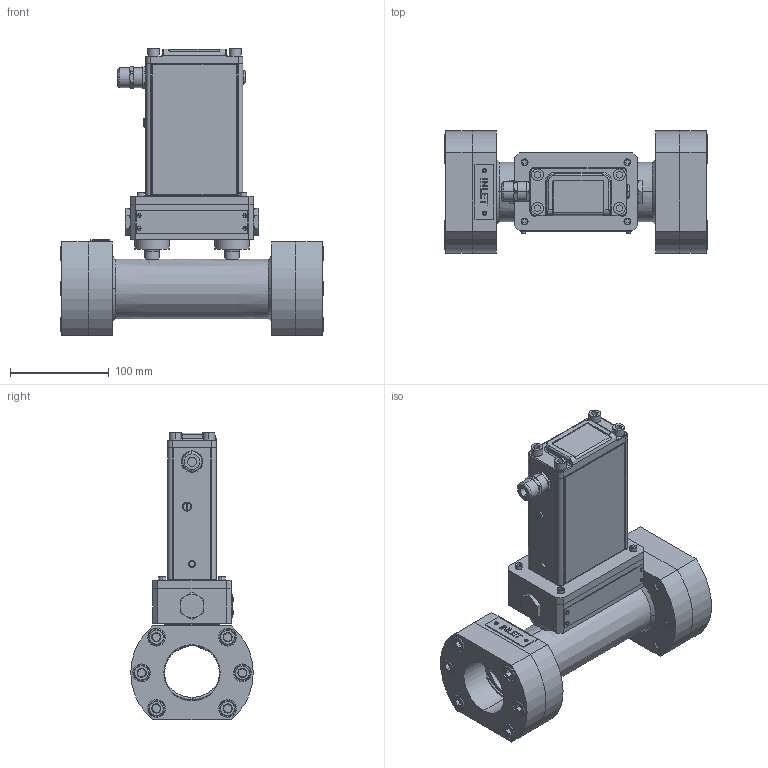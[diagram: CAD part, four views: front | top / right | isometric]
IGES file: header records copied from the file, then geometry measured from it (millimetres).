
Start section: SolidWorks IGES file using analytic representation for surfaces
Global section: file name: G:\Engineering\CAD MODELS FOR SALES\CAD MODEL STORAGE\SLA\SLAMF64\CUSTOMER FILES\IGES\SLAMF64-S-2W-0-G-REVB.IGS; native system: SolidWorks 2019; preprocessor: SolidWorks 2019; author: CFehr; date: 200602.123433; units: inch
Bounding box: 265.4 x 124 x 291.04 mm (x, y, z)
Volume: 1663337.3 mm3; surface area: 492168.3 mm2
Topology: 93 solids, 93 shells, 1918 faces, 4752 edges, 3113 vertices
Faces by surface type: revolution 1105, plane 720, bspline 93
